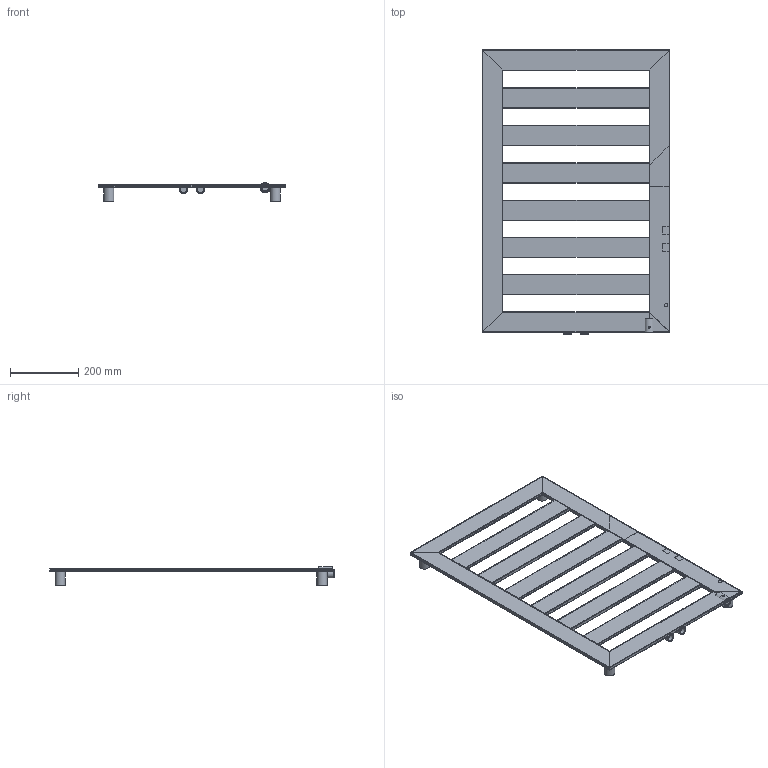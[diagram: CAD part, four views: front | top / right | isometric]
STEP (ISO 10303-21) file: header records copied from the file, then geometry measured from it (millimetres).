
FILE_DESCRIPTION( ( 'Unknown' ), '1' );
FILE_NAME( 'D:/Alplast sp. j/Witryna zespoBu - Projekty/Archiwum/Grzejniki Archiwum/Projekty/DESIGN PROGRAM/ESCALERA/ESCALERA 1.stp', 'Unknown', ( 'Unknown' ), ( 'Unknown' ), 'PSStep 10.1', 'Unknown', ' ' );
FILE_SCHEMA( ( 'AUTOMOTIVE_DESIGN { 1 0 10303 214 1 1 1 1 }' ) );
Length unit declared in the file: millimetre
Products named in the file (21): Assem1; kana³ poziomy    górny  60x10   L550; kana³ poziomy    dolny  60x10   L550; mufa prz³aczeniowa; mufa prz³aczeniowa-oa0; kana³ poziomu  60x10   L430; kana³ poziomu  60x10   L430-oa1; kana³ poziomu  60x10   L430-oa2; kana³ poziomu  60x10   L430-oa3; kana³ poziomu  60x10   L430-oa4; kana³ poziomu  60x10   L430-oa5; kana³ pionowy  60x10   L830; kana³ pionowy  60x10   L830-oa6; sworzen wieszaka; sworzen wieszaka-oa7; sworzen wieszaka-oa8; sworzen wieszaka-oa9; tuleja wieszaka; tuleja wieszaka-oa10; tuleja wieszaka-oa11; tuleja wieszaka-oa12
Bounding box: 550 x 835 x 55.02 mm (x, y, z)
Volume: 2268040.6 mm3; surface area: 2797335.7 mm2
Topology: 40 solids, 40 shells, 698 faces, 1844 edges, 1190 vertices
Faces by surface type: plane 420, cylinder 242, cone 28, bspline 8
Full cylindrical faces by diameter (mm): 4.917 x8, 10 x2, 18.974 x4, 20 x8, 22 x8, 25 x4, 30 x8
Entity records: 14532 total; most frequent: CARTESIAN_POINT 2684, DIRECTION 1820, ORIENTED_EDGE 1752, EDGE_CURVE 876, LINE 608, VECTOR 608, AXIS2_PLACEMENT_3D 606, VERTEX_POINT 586
